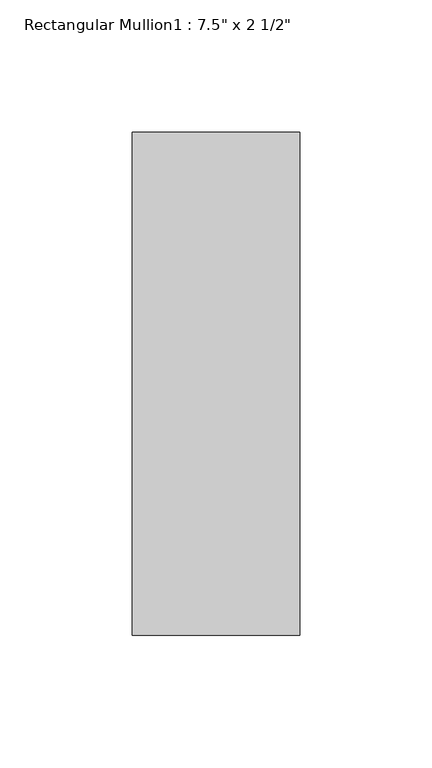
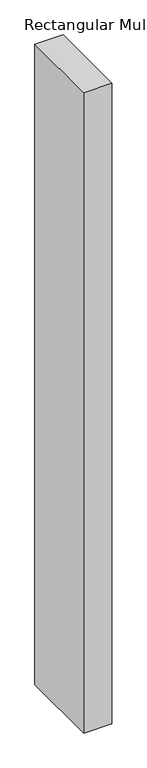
"""IFC4 building model written with IfcOpenShell, lengths in millimetres: member geometry."""

from ifc_helpers import new_model, si_unit, frame, origin, place, context, project, spatial, polyline, outline, extrude, source, transform, mapped, element, save


def member_f09255a1(model_context):
    return source(origin(), model_context, "Body", "SweptSolid", [
        extrude(outline(polyline([(31.75, -165.1), (-31.75, -165.1), (-31.75, 25.4), (31.75, 25.4), (31.75, -165.1)])), frame((0.0, 0.0, -1524.0), z_axis=(0.0, 0.0, 1.0), x_axis=(1.0, 0.0, 0.0)), (0.0, 0.0, 1.0), 1524.0),
    ])


if __name__ == "__main__":
    model = new_model("IFC4")
    model_context = context("Model", 3, world=origin())
    ifc_project = project(units=[si_unit("LENGTHUNIT", "METRE", prefix="MILLI")], contexts=[model_context])
    site = spatial("IfcSite", under=ifc_project)
    building = spatial("IfcBuilding", under=site)
    placement = place(None, origin())
    member_shape = member_f09255a1(model_context)
    element("IfcMember", 1, ObjectType="Rectangular Mullion1 : 7.5\" x 2 1/2\"", at=placement, inside=building, context=model_context, shape_type="MappedRepresentation", body=[
        mapped(member_shape, transform((0.0, 0.0, 0.0), x_axis=(1.0, 0.0, 0.0), y_axis=(0.0, 1.0, 0.0), z_axis=(0.0, 0.0, 1.0))),
    ])
    save(model, "model.ifc")
